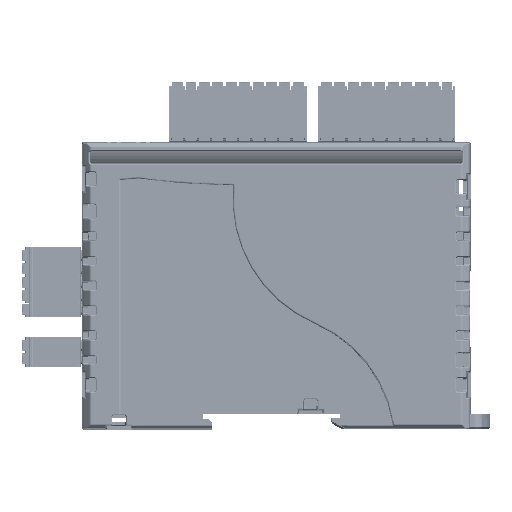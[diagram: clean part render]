
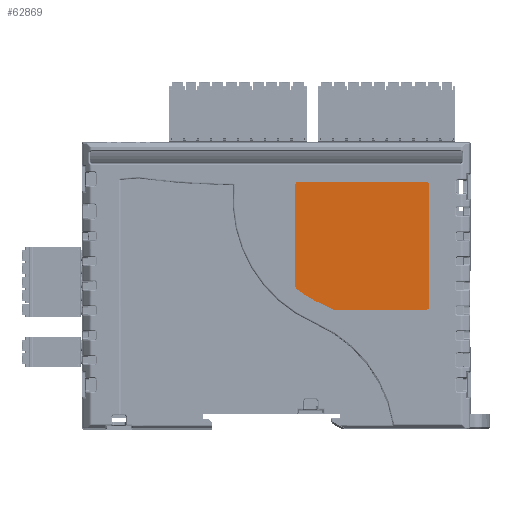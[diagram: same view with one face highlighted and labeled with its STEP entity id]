
A CAD part, front view. The second image highlights one B-rep face of the part: STEP entity #62869.
In plain terms, the highlighted planar face has unit normal (0, -1, 0).
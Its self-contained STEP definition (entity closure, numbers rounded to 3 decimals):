
#30044=DIRECTION('',(-1.,0.,0.));
#30045=VECTOR('',#30044,33.354);
#30046=CARTESIAN_POINT('',(39.177,-16.2,27.174));
#30047=LINE('',#30046,#30045);
#30065=DIRECTION('',(0.,0.,1.));
#30066=VECTOR('',#30065,31.83);
#30067=CARTESIAN_POINT('',(39.974,-16.2,-5.453));
#30068=LINE('',#30067,#30066);
#30086=DIRECTION('',(1.,0.,0.));
#30087=VECTOR('',#30086,23.973);
#30088=CARTESIAN_POINT('',(15.204,-16.2,-6.25));
#30089=LINE('',#30088,#30087);
#30128=DIRECTION('',(0.,0.,-1.));
#30129=VECTOR('',#30128,26.541);
#30130=CARTESIAN_POINT('',(5.026,-16.2,26.377));
#30131=LINE('',#30130,#30129);
#30135=CARTESIAN_POINT('',(5.026,-16.2,26.377));
#30136=CARTESIAN_POINT('',(5.026,-16.2,26.597));
#30137=CARTESIAN_POINT('',(5.104,-16.2,26.785));
#30138=CARTESIAN_POINT('',(5.259,-16.2,26.941));
#30143=CARTESIAN_POINT('',(5.259,-16.2,26.941));
#30144=CARTESIAN_POINT('',(5.415,-16.2,27.096));
#30145=CARTESIAN_POINT('',(5.603,-16.2,27.174));
#30146=CARTESIAN_POINT('',(5.823,-16.2,27.174));
#30151=CARTESIAN_POINT('',(39.177,-16.2,27.174));
#30152=CARTESIAN_POINT('',(39.397,-16.2,27.174));
#30153=CARTESIAN_POINT('',(39.585,-16.2,27.096));
#30154=CARTESIAN_POINT('',(39.741,-16.2,26.941));
#30159=CARTESIAN_POINT('',(39.741,-16.2,26.941));
#30160=CARTESIAN_POINT('',(39.896,-16.2,26.785));
#30161=CARTESIAN_POINT('',(39.974,-16.2,26.597));
#30162=CARTESIAN_POINT('',(39.974,-16.2,26.377));
#30167=CARTESIAN_POINT('',(39.974,-16.2,-5.453));
#30168=CARTESIAN_POINT('',(39.974,-16.2,-5.673));
#30169=CARTESIAN_POINT('',(39.896,-16.2,-5.861));
#30170=CARTESIAN_POINT('',(39.741,-16.2,-6.017));
#30175=CARTESIAN_POINT('',(39.741,-16.2,-6.017));
#30176=CARTESIAN_POINT('',(39.585,-16.2,-6.172));
#30177=CARTESIAN_POINT('',(39.397,-16.2,-6.25));
#30178=CARTESIAN_POINT('',(39.177,-16.2,-6.25));
#30183=CARTESIAN_POINT('',(15.204,-16.2,-5.453));
#30184=DIRECTION('',(0.,1.,0.));
#30185=DIRECTION('',(0.,0.,-1.));
#30186=AXIS2_PLACEMENT_3D('',#30183,#30184,#30185);
#30191=CARTESIAN_POINT('',(-3.758,-16.2,-41.636));
#30192=DIRECTION('',(0.,-1.,0.));
#30193=DIRECTION('',(0.464,0.,0.886));
#30194=AXIS2_PLACEMENT_3D('',#30191,#30192,#30193);
#30199=CARTESIAN_POINT('',(24.023,-16.2,22.67));
#30200=DIRECTION('',(0.,1.,0.));
#30201=DIRECTION('',(-0.397,0.,-0.918));
#30202=AXIS2_PLACEMENT_3D('',#30199,#30200,#30201);
#30207=CARTESIAN_POINT('',(5.823,-16.2,-0.164));
#30208=DIRECTION('',(0.,1.,0.));
#30209=DIRECTION('',(-0.623,0.,-0.782));
#30210=AXIS2_PLACEMENT_3D('',#30207,#30208,#30209);
#34733=CARTESIAN_POINT('',(5.823,-16.2,27.174));
#34734=VERTEX_POINT('',#34733);
#34735=VERTEX_POINT('',#30143);
#34736=VERTEX_POINT('',#30135);
#34737=CARTESIAN_POINT('',(39.177,-16.2,27.174));
#34738=VERTEX_POINT('',#34737);
#34739=CARTESIAN_POINT('',(39.974,-16.2,26.377));
#34740=VERTEX_POINT('',#34739);
#34741=VERTEX_POINT('',#30159);
#34742=CARTESIAN_POINT('',(39.974,-16.2,-5.453));
#34743=VERTEX_POINT('',#34742);
#34744=CARTESIAN_POINT('',(39.177,-16.2,-6.25));
#34745=VERTEX_POINT('',#34744);
#34746=VERTEX_POINT('',#30175);
#34747=CARTESIAN_POINT('',(15.204,-16.2,-6.25));
#34748=VERTEX_POINT('',#34747);
#34749=CARTESIAN_POINT('',(14.834,-16.2,-6.159));
#34750=VERTEX_POINT('',#34749);
#34751=CARTESIAN_POINT('',(12.124,-16.2,-4.866));
#34752=VERTEX_POINT('',#34751);
#34753=CARTESIAN_POINT('',(5.326,-16.2,-0.787));
#34754=VERTEX_POINT('',#34753);
#34755=CARTESIAN_POINT('',(5.026,-16.2,-0.164));
#34756=VERTEX_POINT('',#34755);
#62848=CARTESIAN_POINT('',(0.,-16.2,0.));
#62849=DIRECTION('',(0.,-1.,0.));
#62850=DIRECTION('',(0.,0.,1.));
#62851=AXIS2_PLACEMENT_3D('',#62848,#62849,#62850);
#62852=PLANE('',#62851);
#62853=ORIENTED_EDGE('',*,*,#62690,.T.);
#62854=ORIENTED_EDGE('',*,*,#62688,.T.);
#62855=ORIENTED_EDGE('',*,*,#62705,.F.);
#62856=ORIENTED_EDGE('',*,*,#62725,.T.);
#62857=ORIENTED_EDGE('',*,*,#62723,.T.);
#62858=ORIENTED_EDGE('',*,*,#62739,.F.);
#62859=ORIENTED_EDGE('',*,*,#62759,.T.);
#62860=ORIENTED_EDGE('',*,*,#62757,.T.);
#62861=ORIENTED_EDGE('',*,*,#62773,.F.);
#62862=ORIENTED_EDGE('',*,*,#62787,.T.);
#62863=ORIENTED_EDGE('',*,*,#62801,.T.);
#62864=ORIENTED_EDGE('',*,*,#62815,.T.);
#62865=ORIENTED_EDGE('',*,*,#62829,.T.);
#62866=ORIENTED_EDGE('',*,*,#62842,.F.);
#62867=EDGE_LOOP('',(#62853,#62854,#62855,#62856,#62857,#62858,#62859,#62860,
#62861,#62862,#62863,#62864,#62865,#62866));
#62868=FACE_OUTER_BOUND('',#62867,.F.);
#30139=B_SPLINE_CURVE_WITH_KNOTS('',3,(#30135,#30136,#30137,#30138),
.UNSPECIFIED.,.F.,.F.,(4,4),(0.,1.),.UNSPECIFIED.);
#30147=B_SPLINE_CURVE_WITH_KNOTS('',3,(#30143,#30144,#30145,#30146),
.UNSPECIFIED.,.F.,.F.,(4,4),(0.,1.),.UNSPECIFIED.);
#30155=B_SPLINE_CURVE_WITH_KNOTS('',3,(#30151,#30152,#30153,#30154),
.UNSPECIFIED.,.F.,.F.,(4,4),(0.,1.),.UNSPECIFIED.);
#30163=B_SPLINE_CURVE_WITH_KNOTS('',3,(#30159,#30160,#30161,#30162),
.UNSPECIFIED.,.F.,.F.,(4,4),(0.,1.),.UNSPECIFIED.);
#30171=B_SPLINE_CURVE_WITH_KNOTS('',3,(#30167,#30168,#30169,#30170),
.UNSPECIFIED.,.F.,.F.,(4,4),(0.,1.),.UNSPECIFIED.);
#30179=B_SPLINE_CURVE_WITH_KNOTS('',3,(#30175,#30176,#30177,#30178),
.UNSPECIFIED.,.F.,.F.,(4,4),(0.,1.),.UNSPECIFIED.);
#30187=CIRCLE('',#30186,0.796);
#30195=CIRCLE('',#30194,40.054);
#30203=CIRCLE('',#30202,29.997);
#30211=CIRCLE('',#30210,0.797);
#62688=EDGE_CURVE('',#34735,#34734,#30147,.T.);
#62690=EDGE_CURVE('',#34736,#34735,#30139,.T.);
#62705=EDGE_CURVE('',#34738,#34734,#30047,.T.);
#62723=EDGE_CURVE('',#34741,#34740,#30163,.T.);
#62725=EDGE_CURVE('',#34738,#34741,#30155,.T.);
#62739=EDGE_CURVE('',#34743,#34740,#30068,.T.);
#62757=EDGE_CURVE('',#34746,#34745,#30179,.T.);
#62759=EDGE_CURVE('',#34743,#34746,#30171,.T.);
#62773=EDGE_CURVE('',#34748,#34745,#30089,.T.);
#62787=EDGE_CURVE('',#34748,#34750,#30187,.T.);
#62801=EDGE_CURVE('',#34750,#34752,#30195,.T.);
#62815=EDGE_CURVE('',#34752,#34754,#30203,.T.);
#62829=EDGE_CURVE('',#34754,#34756,#30211,.T.);
#62842=EDGE_CURVE('',#34736,#34756,#30131,.T.);
#62869=ADVANCED_FACE('',(#62868),#62852,.T.);
